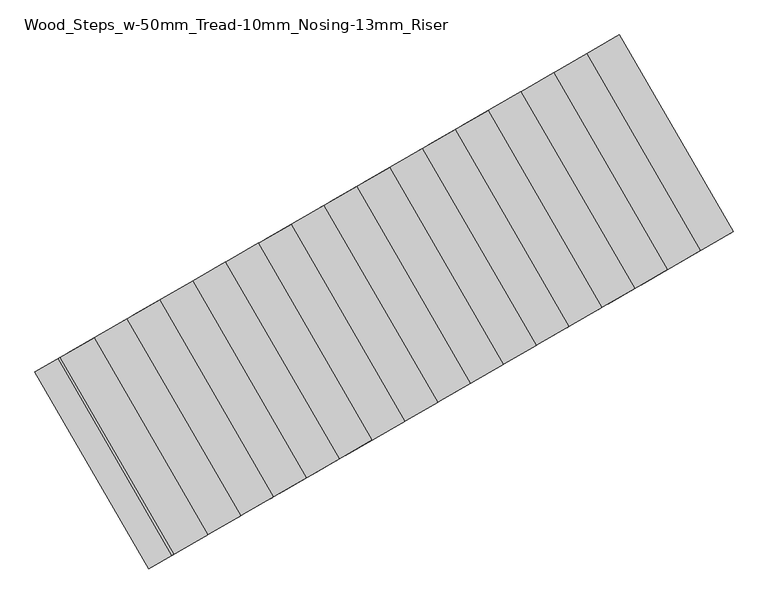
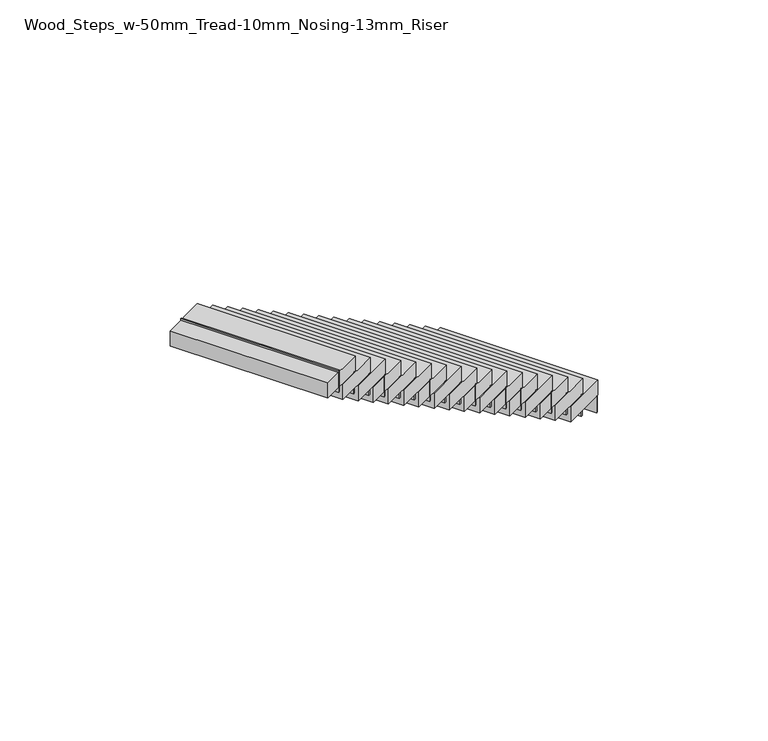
"""IFC4 building model written with IfcOpenShell, lengths in millimetres: stair flight geometry, Wood_Steps_w-50mm_Tread-10mm_Nosing-13mm_Riser."""

from ifc_helpers import new_model, si_unit, frame, origin, place, context, project, spatial, polyline, outline, extrude, source, transform, mapped, element, save


def wood_steps_w_50mm_tread_10mm_nosing_13mm_riser_1b7bef0b(model_context):
    return source(origin(), model_context, "Body", "SweptSolid", [
        extrude(outline(polyline([(8833.6169289, 26781.4572035), (9223.3283606, 27006.4572035), (9973.3283606, 25707.4190978), (9583.6169289, 25482.4190978), (8833.6169289, 26781.4572035)])), frame((0.0, 0.0, 3466.6666667), z_axis=(0.0, 0.0, 1.0), x_axis=(1.0, 0.0, 0.0)), (0.0, 0.0, 1.0), 150.0),
        extrude(outline(polyline([(9203.8427891, 26995.2072035), (9214.6681066, 27001.4572035), (9964.6681066, 25702.4190978), (9953.8427891, 25696.1690978), (9203.8427891, 26995.2072035)])), frame((0.0, 0.0, 3300.0), z_axis=(0.0, 0.0, 1.0), x_axis=(1.0, 0.0, 0.0)), (0.0, 0.0, 1.0), 166.6666667),
        extrude(outline(polyline([(8987.3364381, 26870.2072035), (8998.1617557, 26876.4572035), (9748.1617557, 25577.4190978), (9737.3364381, 25571.1690978), (8987.3364381, 26870.2072035)])), frame((0.0, 0.0, 3416.6666667), z_axis=(0.0, 0.0, 1.0), x_axis=(1.0, 0.0, 0.0)), (0.0, 0.0, 1.0), 216.6666667),
        extrude(outline(polyline([(8617.110578, 26656.4572035), (9006.8220097, 26881.4572035), (9756.8220097, 25582.4190978), (9367.110578, 25357.4190978), (8617.110578, 26656.4572035)])), frame((0.0, 0.0, 3633.3333333), z_axis=(0.0, 0.0, 1.0), x_axis=(1.0, 0.0, 0.0)), (0.0, 0.0, 1.0), 150.0),
        extrude(outline(polyline([(8770.8300872, 26745.2072035), (8781.6554047, 26751.4572035), (9531.6554047, 25452.4190978), (9520.8300872, 25446.1690978), (8770.8300872, 26745.2072035)])), frame((0.0, 0.0, 3583.3333333), z_axis=(0.0, 0.0, 1.0), x_axis=(1.0, 0.0, 0.0)), (0.0, 0.0, 1.0), 216.6666667),
        extrude(outline(polyline([(8400.604227, 26531.4572035), (8790.3156588, 26756.4572035), (9540.3156588, 25457.4190978), (9150.604227, 25232.4190978), (8400.604227, 26531.4572035)])), frame((0.0, 0.0, 3800.0), z_axis=(0.0, 0.0, 1.0), x_axis=(1.0, 0.0, 0.0)), (0.0, 0.0, 1.0), 150.0),
        extrude(outline(polyline([(8554.3237362, 26620.2072035), (8565.1490538, 26626.4572035), (9315.1490538, 25327.4190978), (9304.3237362, 25321.1690978), (8554.3237362, 26620.2072035)])), frame((0.0, 0.0, 3750.0), z_axis=(0.0, 0.0, 1.0), x_axis=(1.0, 0.0, 0.0)), (0.0, 0.0, 1.0), 216.6666667),
        extrude(outline(polyline([(8184.0978761, 26406.4572035), (8573.8093078, 26631.4572035), (9323.8093078, 25332.4190978), (8934.0978761, 25107.4190978), (8184.0978761, 26406.4572035)])), frame((0.0, 0.0, 3966.6666667), z_axis=(0.0, 0.0, 1.0), x_axis=(1.0, 0.0, 0.0)), (0.0, 0.0, 1.0), 150.0),
        extrude(outline(polyline([(8337.8173853, 26495.2072035), (8348.6427028, 26501.4572035), (9098.6427028, 25202.4190978), (9087.8173853, 25196.1690978), (8337.8173853, 26495.2072035)])), frame((0.0, 0.0, 3916.6666667), z_axis=(0.0, 0.0, 1.0), x_axis=(1.0, 0.0, 0.0)), (0.0, 0.0, 1.0), 216.6666667),
        extrude(outline(polyline([(7967.5915252, 26281.4572035), (8357.3029569, 26506.4572035), (9107.3029569, 25207.4190978), (8717.5915252, 24982.4190978), (7967.5915252, 26281.4572035)])), frame((0.0, 0.0, 4133.3333333), z_axis=(0.0, 0.0, 1.0), x_axis=(1.0, 0.0, 0.0)), (0.0, 0.0, 1.0), 150.0),
        extrude(outline(polyline([(8121.3110343, 26370.2072035), (8132.1363519, 26376.4572035), (8882.1363519, 25077.4190978), (8871.3110343, 25071.1690978), (8121.3110343, 26370.2072035)])), frame((0.0, 0.0, 4083.3333333), z_axis=(0.0, 0.0, 1.0), x_axis=(1.0, 0.0, 0.0)), (0.0, 0.0, 1.0), 216.6666667),
        extrude(outline(polyline([(7751.0851742, 26156.4572035), (8140.7966059, 26381.4572035), (8890.7966059, 25082.4190978), (8501.0851742, 24857.4190978), (7751.0851742, 26156.4572035)])), frame((0.0, 0.0, 4300.0), z_axis=(0.0, 0.0, 1.0), x_axis=(1.0, 0.0, 0.0)), (0.0, 0.0, 1.0), 150.0),
        extrude(outline(polyline([(7904.8046834, 26245.2072035), (7915.6300009, 26251.4572035), (8665.6300009, 24952.4190978), (8654.8046834, 24946.1690978), (7904.8046834, 26245.2072035)])), frame((0.0, 0.0, 4250.0), z_axis=(0.0, 0.0, 1.0), x_axis=(1.0, 0.0, 0.0)), (0.0, 0.0, 1.0), 216.6666667),
        extrude(outline(polyline([(7534.5788233, 26031.4572035), (7924.290255, 26256.4572035), (8674.290255, 24957.4190978), (8284.5788233, 24732.4190978), (7534.5788233, 26031.4572035)])), frame((0.0, 0.0, 4466.6666667), z_axis=(0.0, 0.0, 1.0), x_axis=(1.0, 0.0, 0.0)), (0.0, 0.0, 1.0), 150.0),
        extrude(outline(polyline([(7688.2983324, 26120.2072035), (7699.12365, 26126.4572035), (8449.12365, 24827.4190978), (8438.2983324, 24821.1690978), (7688.2983324, 26120.2072035)])), frame((0.0, 0.0, 4416.6666667), z_axis=(0.0, 0.0, 1.0), x_axis=(1.0, 0.0, 0.0)), (0.0, 0.0, 1.0), 216.6666667),
        extrude(outline(polyline([(7318.0724723, 25906.4572035), (7707.783904, 26131.4572035), (8457.783904, 24832.4190978), (8068.0724723, 24607.4190978), (7318.0724723, 25906.4572035)])), frame((0.0, 0.0, 4633.3333333), z_axis=(0.0, 0.0, 1.0), x_axis=(1.0, 0.0, 0.0)), (0.0, 0.0, 1.0), 150.0),
        extrude(outline(polyline([(7471.7919815, 25995.2072035), (7482.617299, 26001.4572035), (8232.617299, 24702.4190978), (8221.7919815, 24696.1690978), (7471.7919815, 25995.2072035)])), frame((0.0, 0.0, 4583.3333333), z_axis=(0.0, 0.0, 1.0), x_axis=(1.0, 0.0, 0.0)), (0.0, 0.0, 1.0), 216.6666667),
        extrude(outline(polyline([(7101.5661214, 25781.4572035), (7491.2775531, 26006.4572035), (8241.2775531, 24707.4190978), (7851.5661214, 24482.4190978), (7101.5661214, 25781.4572035)])), frame((0.0, 0.0, 4800.0), z_axis=(0.0, 0.0, 1.0), x_axis=(1.0, 0.0, 0.0)), (0.0, 0.0, 1.0), 150.0),
        extrude(outline(polyline([(7255.2856305, 25870.2072035), (7266.1109481, 25876.4572035), (8016.1109481, 24577.4190978), (8005.2856305, 24571.1690978), (7255.2856305, 25870.2072035)])), frame((0.0, 0.0, 4750.0), z_axis=(0.0, 0.0, 1.0), x_axis=(1.0, 0.0, 0.0)), (0.0, 0.0, 1.0), 216.6666667),
        extrude(outline(polyline([(6885.0597704, 25656.4572035), (7274.7712021, 25881.4572035), (8024.7712021, 24582.4190978), (7635.0597704, 24357.4190978), (6885.0597704, 25656.4572035)])), frame((0.0, 0.0, 4966.6666667), z_axis=(0.0, 0.0, 1.0), x_axis=(1.0, 0.0, 0.0)), (0.0, 0.0, 1.0), 150.0),
        extrude(outline(polyline([(7038.7792796, 25745.2072035), (7049.6045971, 25751.4572035), (7799.6045971, 24452.4190978), (7788.7792796, 24446.1690978), (7038.7792796, 25745.2072035)])), frame((0.0, 0.0, 4916.6666667), z_axis=(0.0, 0.0, 1.0), x_axis=(1.0, 0.0, 0.0)), (0.0, 0.0, 1.0), 216.6666667),
        extrude(outline(polyline([(6668.5534195, 25531.4572035), (7058.2648512, 25756.4572035), (7808.2648512, 24457.4190978), (7418.5534195, 24232.4190978), (6668.5534195, 25531.4572035)])), frame((0.0, 0.0, 5133.3333333), z_axis=(0.0, 0.0, 1.0), x_axis=(1.0, 0.0, 0.0)), (0.0, 0.0, 1.0), 150.0),
        extrude(outline(polyline([(6822.2729287, 25620.2072035), (6833.0982462, 25626.4572035), (7583.0982462, 24327.4190978), (7572.2729287, 24321.1690978), (6822.2729287, 25620.2072035)])), frame((0.0, 0.0, 5083.3333333), z_axis=(0.0, 0.0, 1.0), x_axis=(1.0, 0.0, 0.0)), (0.0, 0.0, 1.0), 216.6666667),
        extrude(outline(polyline([(6452.0470685, 25406.4572035), (6841.7585002, 25631.4572035), (7591.7585002, 24332.4190978), (7202.0470685, 24107.4190978), (6452.0470685, 25406.4572035)])), frame((0.0, 0.0, 5300.0), z_axis=(0.0, 0.0, 1.0), x_axis=(1.0, 0.0, 0.0)), (0.0, 0.0, 1.0), 150.0),
        extrude(outline(polyline([(6605.7665777, 25495.2072035), (6616.5918953, 25501.4572035), (7366.5918953, 24202.4190978), (7355.7665777, 24196.1690978), (6605.7665777, 25495.2072035)])), frame((0.0, 0.0, 5250.0), z_axis=(0.0, 0.0, 1.0), x_axis=(1.0, 0.0, 0.0)), (0.0, 0.0, 1.0), 216.6666667),
        extrude(outline(polyline([(6235.5407176, 25281.4572035), (6625.2521493, 25506.4572035), (7375.2521493, 24207.4190978), (6985.5407176, 23982.4190978), (6235.5407176, 25281.4572035)])), frame((0.0, 0.0, 5466.6666667), z_axis=(0.0, 0.0, 1.0), x_axis=(1.0, 0.0, 0.0)), (0.0, 0.0, 1.0), 150.0),
        extrude(outline(polyline([(6389.2602268, 25370.2072035), (6400.0855443, 25376.4572035), (7150.0855443, 24077.4190978), (7139.2602268, 24071.1690978), (6389.2602268, 25370.2072035)])), frame((0.0, 0.0, 5416.6666667), z_axis=(0.0, 0.0, 1.0), x_axis=(1.0, 0.0, 0.0)), (0.0, 0.0, 1.0), 216.6666667),
        extrude(outline(polyline([(6019.0343666, 25156.4572035), (6408.7457983, 25381.4572035), (7158.7457983, 24082.4190978), (6769.0343666, 23857.4190978), (6019.0343666, 25156.4572035)])), frame((0.0, 0.0, 5633.3333333), z_axis=(0.0, 0.0, 1.0), x_axis=(1.0, 0.0, 0.0)), (0.0, 0.0, 1.0), 150.0),
        extrude(outline(polyline([(6172.7538758, 25245.2072035), (6183.5791934, 25251.4572035), (6933.5791934, 23952.4190978), (6922.7538758, 23946.1690978), (6172.7538758, 25245.2072035)])), frame((0.0, 0.0, 5583.3333333), z_axis=(0.0, 0.0, 1.0), x_axis=(1.0, 0.0, 0.0)), (0.0, 0.0, 1.0), 216.6666667),
        extrude(outline(polyline([(5802.5280157, 25031.4572035), (6192.2394474, 25256.4572035), (6942.2394474, 23957.4190978), (6552.5280157, 23732.4190978), (5802.5280157, 25031.4572035)])), frame((0.0, 0.0, 5800.0), z_axis=(0.0, 0.0, 1.0), x_axis=(1.0, 0.0, 0.0)), (0.0, 0.0, 1.0), 150.0),
        extrude(outline(polyline([(5956.2475249, 25120.2072035), (5967.0728424, 25126.4572035), (6717.0728424, 23827.4190978), (6706.2475249, 23821.1690978), (5956.2475249, 25120.2072035)])), frame((0.0, 0.0, 5750.0), z_axis=(0.0, 0.0, 1.0), x_axis=(1.0, 0.0, 0.0)), (0.0, 0.0, 1.0), 216.6666667),
        extrude(outline(polyline([(5586.0216647, 24906.4572035), (5975.7330965, 25131.4572035), (6725.7330965, 23832.4190978), (6336.0216647, 23607.4190978), (5586.0216647, 24906.4572035)])), frame((0.0, 0.0, 5966.6666667), z_axis=(0.0, 0.0, 1.0), x_axis=(1.0, 0.0, 0.0)), (0.0, 0.0, 1.0), 150.0),
        extrude(outline(polyline([(5739.7411739, 24995.2072035), (5750.5664915, 25001.4572035), (6500.5664915, 23702.4190978), (6489.7411739, 23696.1690978), (5739.7411739, 24995.2072035)])), frame((0.0, 0.0, 5916.6666667), z_axis=(0.0, 0.0, 1.0), x_axis=(1.0, 0.0, 0.0)), (0.0, 0.0, 1.0), 216.6666667),
        extrude(outline(polyline([(5523.234823, 24870.2072035), (5534.0601405, 24876.4572035), (6284.0601405, 23577.4190978), (6273.234823, 23571.1690978), (5523.234823, 24870.2072035)])), frame((0.0, 0.0, 6083.3333333), z_axis=(0.0, 0.0, 1.0), x_axis=(1.0, 0.0, 0.0)), (0.0, 0.0, 1.0), 216.6666667),
        extrude(outline(polyline([(5369.5153138, 24781.4572035), (5759.2267455, 25006.4572035), (6509.2267455, 23707.4190978), (6119.5153138, 23482.4190978), (5369.5153138, 24781.4572035)])), frame((0.0, 0.0, 6133.3333333), z_axis=(0.0, 0.0, 1.0), x_axis=(1.0, 0.0, 0.0)), (0.0, 0.0, 1.0), 150.0),
    ])


if __name__ == "__main__":
    model = new_model("IFC4")
    model_context = context("Model", 3, world=origin())
    ifc_project = project(units=[si_unit("LENGTHUNIT", "METRE", prefix="MILLI")], contexts=[model_context])
    site = spatial("IfcSite", under=ifc_project)
    building = spatial("IfcBuilding", under=site)
    placement = place(None, origin())
    wood_steps_w_50mm_tread_10mm_nosing_13mm_riser_shape = wood_steps_w_50mm_tread_10mm_nosing_13mm_riser_1b7bef0b(model_context)
    element("IfcStairFlight", 1, ObjectType="Wood_Steps_w-50mm_Tread-10mm_Nosing-13mm_Riser", at=placement, inside=building, context=model_context, shape_type="MappedRepresentation", body=[
        mapped(wood_steps_w_50mm_tread_10mm_nosing_13mm_riser_shape, transform((0.0, 0.0, 0.0), x_axis=(1.0, 0.0, 0.0), y_axis=(0.0, 1.0, 0.0), z_axis=(0.0, 0.0, 1.0))),
    ])
    save(model, "model.ifc")
